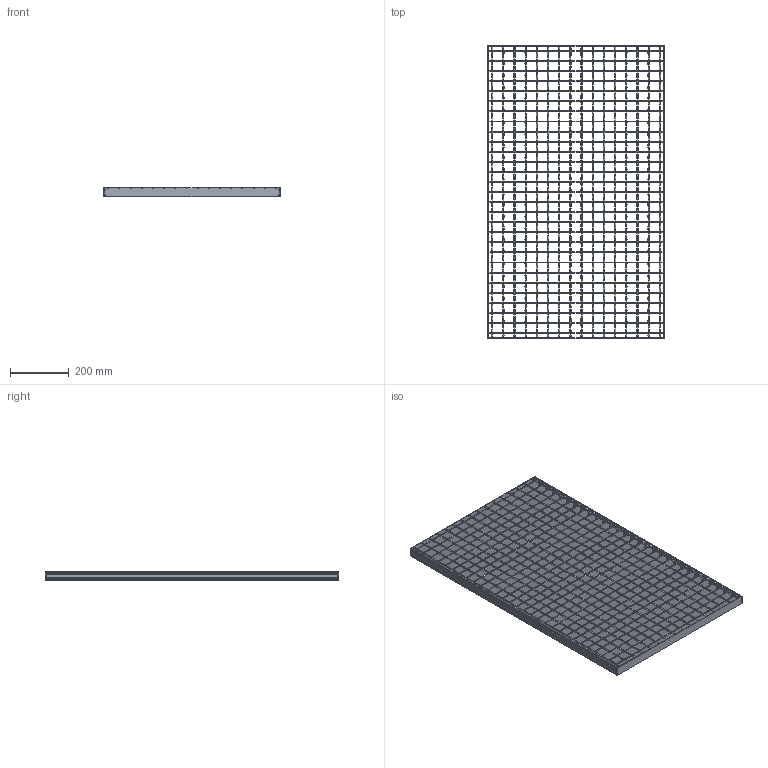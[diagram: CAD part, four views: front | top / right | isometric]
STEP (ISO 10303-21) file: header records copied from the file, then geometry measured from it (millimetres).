
FILE_DESCRIPTION(/* description */ ('STEP AP242','CAx-IF Rec.Pracs.---Representation and Presentation of Product Manufacturing Information (PMI)---4.0---2014-10-13','CAx-IF Rec.Pracs.---3D Tessellated Geometry---0.4---2014-09-14','2;1'),/* implementation_level */ '2;1');
FILE_NAME(/* name */ 'Lichtgitter_Forge_welded_gratings SP 330-34_38-3-1-1-600-1000_(350_1_0)',/* time_stamp */ '2026-04-23T13:48:53+02:00',/* author */ ('License CC BY-ND 4.0'),/* organization */ ('CADENAS'),/* preprocessor_version */ 'ST-DEVELOPER v20',/* originating_system */ 'PARTsolutions',/* authorisation */ ' ');
FILE_SCHEMA (('AP242_MANAGED_MODEL_BASED_3D_ENGINEERING_MIM_LF { 1 0 10303 442 1 1 4 }'));
Length unit declared in the file: millimetre
Products named in the file (5): Lichtgitter_Forge_welded_gratings SP 330-34/38-3-1-1-600-1000_(350_1_
0); Lichtgitter SP 330-34/38-3_(350_1_2_600_1000_Schweisspressroste)_VERT
ICAL_SIDES; Lichtgitter SP 330-34/38-3_(350_1_2_600_1000_Schweisspressroste)_HORI
ZONTAL_C; Lichtgitter SP 330-34/38-3_(350_1_2_600_1000_Schweisspressroste)_HORI
ZONTAL_SIDES; Lichtgitter SP 3.46530-34/38-3.465_(350_1_2_600_1000_Schweisspressros
te)_VERTICAL_C
Assembly tree (49 placements, depth 2):
  Lichtgitter_Forge_welded_gratings SP 330-34/38-3-1-1-600-1000_(350_1_
0)
    Lichtgitter SP 330-34/38-3_(350_1_2_600_1000_Schweisspressroste)_VERT
ICAL_SIDES  x2
    Lichtgitter SP 330-34/38-3_(350_1_2_600_1000_Schweisspressroste)_HORI
ZONTAL_C  x29
    Lichtgitter SP 330-34/38-3_(350_1_2_600_1000_Schweisspressroste)_HORI
ZONTAL_SIDES  x2
    Lichtgitter SP 3.46530-34/38-3.465_(350_1_2_600_1000_Schweisspressros
te)_VERTICAL_C  x16
Bounding box: 600 x 1000 x 30.72 mm (x, y, z)
Volume: 1981603 mm3; surface area: 1563475.2 mm2
Topology: 49 solids, 49 shells, 4382 faces, 9716 edges, 5432 vertices
Faces by surface type: bspline 3200, plane 702, cylinder 480
Entity records: 8099 total; most frequent: CARTESIAN_POINT 2614, ORIENTED_EDGE 1144, DIRECTION 844, EDGE_CURVE 572, LINE 520, VECTOR 520, VERTEX_POINT 316, EDGE_LOOP 264
